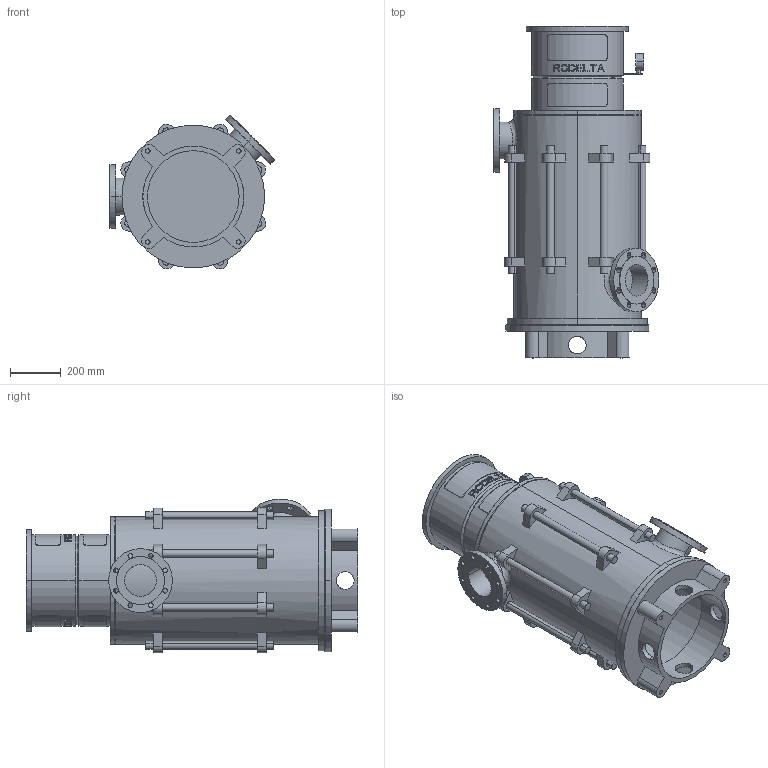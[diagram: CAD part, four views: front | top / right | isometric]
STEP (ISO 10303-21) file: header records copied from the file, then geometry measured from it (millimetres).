
FILE_DESCRIPTION((''),'2;1');
FILE_NAME('LS5_4TR_0GR_TOT_30KW','2023-08-08T',('Lyritlocal'),(''),'PRO/ENGINEER BY PARAMETRIC TECHNOLOGY CORPORATION, 2016360','PRO/ENGINEER BY PARAMETRIC TECHNOLOGY CORPORATION, 2016360','');
FILE_SCHEMA(('CONFIG_CONTROL_DESIGN'));
Length unit declared in the file: millimetre
Products named in the file (1): LS5_4TR_0GR_TOT_30KW
Bounding box: 649.61 x 1302 x 603.65 mm (x, y, z)
Volume: 37520309.9 mm3; surface area: 5384782.1 mm2
Topology: 3 solids, 7 shells, 672 faces, 1747 edges, 1158 vertices
Faces by surface type: plane 414, cylinder 242, cone 12, bspline 4
Entity records: 22050 total; most frequent: CARTESIAN_POINT 5606, ORIENTED_EDGE 3478, DIRECTION 3269, EDGE_CURVE 1747, AXIS2_PLACEMENT_3D 1241, VERTEX_POINT 1158, EDGE_LOOP 809, VECTOR 787
